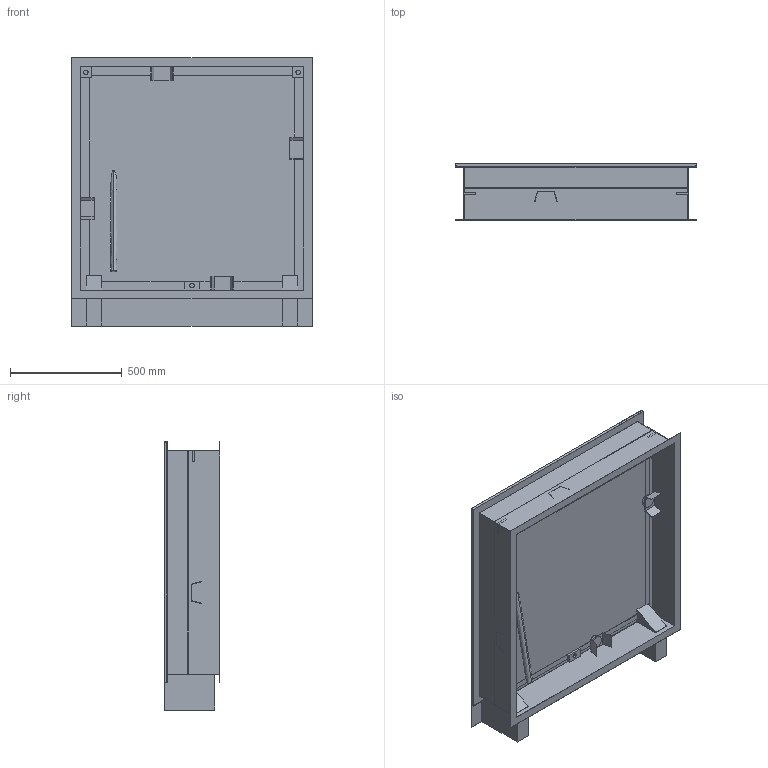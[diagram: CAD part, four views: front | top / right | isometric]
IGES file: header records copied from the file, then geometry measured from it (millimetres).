
Start section:  PTC IGES file: 51679847.igs
Global section: file name: 51679847.igs; native system: Creo Parametric by PTC Inc.; preprocessor: 2021184; author: hrl; organization: Unknown; date: 20220222.125435; units: millimetre
Bounding box: 1078 x 250 x 1200 mm (x, y, z)
Surface area: 5950204.3 mm2 (no closed solid volume)
Topology: 0 solids, 0 shells, 176 faces, 964 edges, 964 vertices
Faces by surface type: bspline 143, revolution 33
